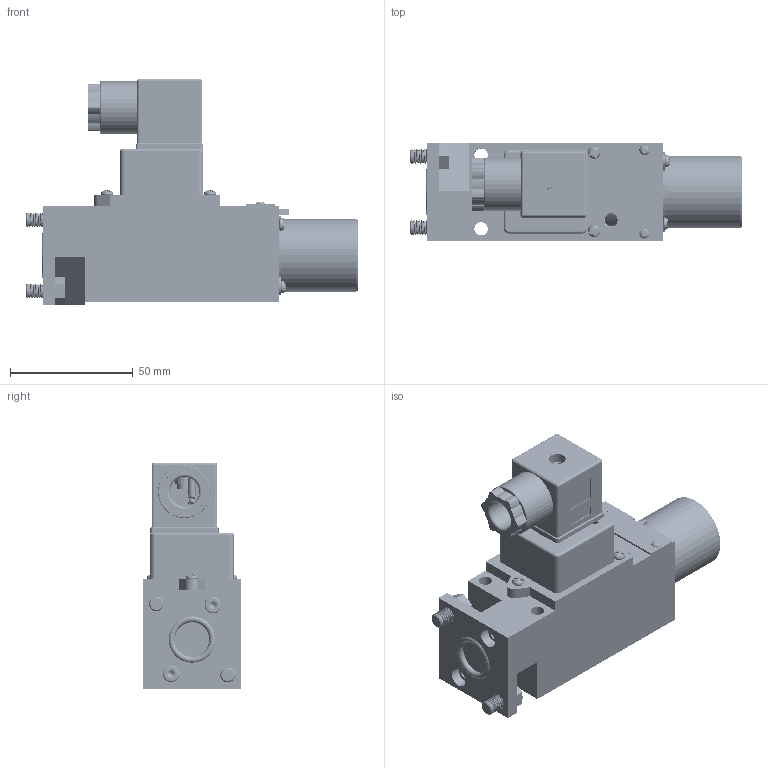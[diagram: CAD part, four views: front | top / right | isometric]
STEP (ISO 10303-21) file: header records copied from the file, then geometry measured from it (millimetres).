
FILE_DESCRIPTION(/* description */ (''),/* implementation_level */ '2;1');
FILE_NAME(/* name */ 'HED4-OH压力继电器.prt.stp',/* time_stamp */ '2022-03-30T19:53:56+08:00',/* author */ (''),/* organization */ (''),/* preprocessor_version */ 'ST-DEVELOPER v16.7',/* originating_system */ 'SIEMENS PLM Software NX 12.0',/* authorisation */ '');
FILE_SCHEMA (('AUTOMOTIVE_DESIGN { 1 0 10303 214 3 1 1 1 }'));
Products named in the file (1): HED4-OH压力继电器
Bounding box: 135.3 x 40 x 92.27 mm (x, y, z)
Volume: 71841.6 mm3; surface area: 66898.3 mm2
Topology: 22 solids, 26 shells, 1113 faces, 2955 edges, 1927 vertices
Faces by surface type: plane 483, cylinder 412, bspline 82, extrusion 69, cone 43, torus 20, sphere 4
Full cylindrical faces by diameter (mm): 0.653 x1, 0.665 x1, 1.76 x1, 1.8 x2, 1.9 x2, 2 x2, 2.55 x84, 3 x137, 3.4 x16, 3.5 x8, 4 x1, 4.3 x2, 5 x3, 5.5 x2, 6 x3, 6.6 x2, 6.78 x2, 7 x1, 8 x3, 12 x1, 13 x1, 16.5 x1, 18.8 x1, 19 x1, 21.5 x1, 22.4 x1, 28 x2, 29.5 x1
Entity records: 138673 total; most frequent: CARTESIAN_POINT 118587, ORIENTED_EDGE 4082, DIRECTION 3534, EDGE_CURVE 2041, VERTEX_POINT 1397, AXIS2_PLACEMENT_3D 1185, VECTOR 1164, EDGE_LOOP 1100
